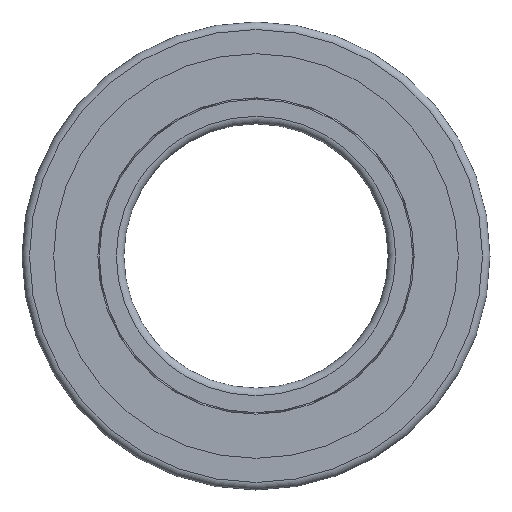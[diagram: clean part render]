
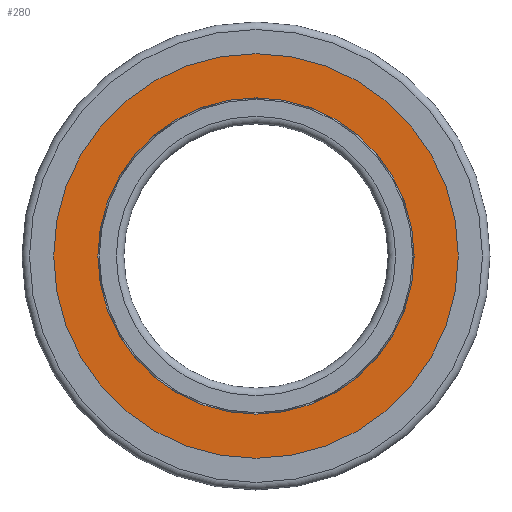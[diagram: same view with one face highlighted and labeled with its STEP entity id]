
A CAD part, left-side view. The second image highlights one B-rep face of the part: STEP entity #280.
In plain terms, the highlighted planar face has unit normal (-1, 0, 0).
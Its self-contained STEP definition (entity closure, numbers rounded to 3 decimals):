
#228=PLANE('',#1018);
#280=ADVANCED_FACE('',(#367,#368),#228,.F.);
#367=FACE_BOUND('',#531,.T.);
#368=FACE_BOUND('',#532,.T.);
#531=EDGE_LOOP('',(#675));
#532=EDGE_LOOP('',(#676));
#675=ORIENTED_EDGE('',*,*,#903,.F.);
#676=ORIENTED_EDGE('',*,*,#901,.T.);
#809=VERTEX_POINT('',#1338);
#811=VERTEX_POINT('',#1343);
#901=EDGE_CURVE('',#809,#809,#973,.T.);
#903=EDGE_CURVE('',#811,#811,#975,.T.);
#973=CIRCLE('',#1014,26.8);
#975=CIRCLE('',#1017,20.95);
#1014=AXIS2_PLACEMENT_3D('',#1337,#1136,#1137);
#1017=AXIS2_PLACEMENT_3D('',#1342,#1142,#1143);
#1018=AXIS2_PLACEMENT_3D('',#1344,#1144,#1145);
#1136=DIRECTION('',(-1.,0.,0.));
#1137=DIRECTION('',(0.,0.,1.));
#1142=DIRECTION('',(-1.,0.,0.));
#1143=DIRECTION('',(0.,0.,1.));
#1144=DIRECTION('',(1.,0.,0.));
#1145=DIRECTION('',(0.,0.,-1.));
#1337=CARTESIAN_POINT('',(0.1,0.,0.));
#1338=CARTESIAN_POINT('',(0.1,0.,26.8));
#1342=CARTESIAN_POINT('',(0.1,0.,0.));
#1343=CARTESIAN_POINT('',(0.1,0.,20.95));
#1344=CARTESIAN_POINT('',(0.1,0.,26.8));
